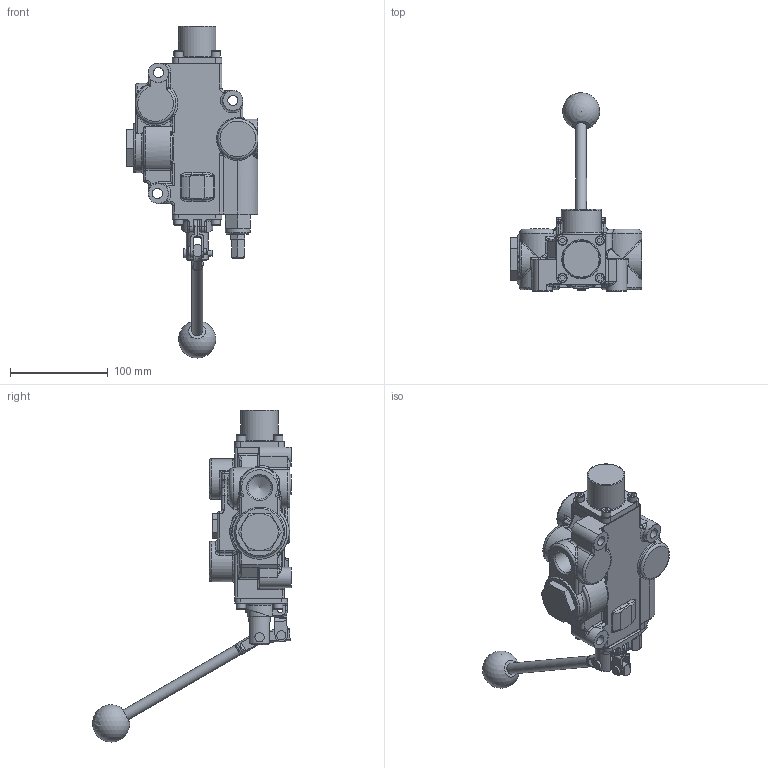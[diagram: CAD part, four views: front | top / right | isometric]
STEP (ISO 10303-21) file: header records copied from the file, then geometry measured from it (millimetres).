
FILE_DESCRIPTION((''),'2;1');
FILE_NAME('C:\Vault\Workspace\z_ShellModels\RD512CA5A4B1_Shell.stp','2012-03-19T08:55:58',('PetersW'),(''),'Autodesk Inventor 2012','Autodesk Inventor 2012','');
FILE_SCHEMA(('AUTOMOTIVE_DESIGN { 1 0 10303 214 1 1 1 1 }'));
Length unit declared in the file: inch
Products named in the file (1): RD512xA5A4B1_Shell
Bounding box: 135.06 x 203.39 x 339.8 mm (x, y, z)
Volume: 947718.3 mm3; surface area: 146547.9 mm2
Topology: 3 solids, 28 shells, 1227 faces, 3018 edges, 1847 vertices
Faces by surface type: plane 494, cylinder 308, bspline 197, cone 111, torus 93, sphere 24
Full cylindrical faces by diameter (mm): 2.388 x2, 4.75 x1, 4.813 x2, 4.978 x8, 5.017 x2, 6.248 x2, 6.325 x2, 6.35 x6, 6.375 x2, 6.731 x4, 8.382 x2, 9.398 x1, 9.525 x11, 10.312 x3, 11.113 x1, 12.446 x1, 14.656 x1, 16.688 x1, 17.069 x2, 17.399 x2, 17.45 x1, 17.488 x1, 18.237 x2, 19.685 x1, 20.472 x1, 20.638 x2, 22.225 x1, 23.419 x2, 23.52 x1, 23.523 x1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
Entity records: 46096 total; most frequent: CARTESIAN_POINT 18733, ORIENTED_EDGE 5460, DIRECTION 5164, EDGE_CURVE 2730, AXIS2_PLACEMENT_3D 1985, VERTEX_POINT 1757, EDGE_LOOP 1465, FACE_OUTER_BOUND 1227
